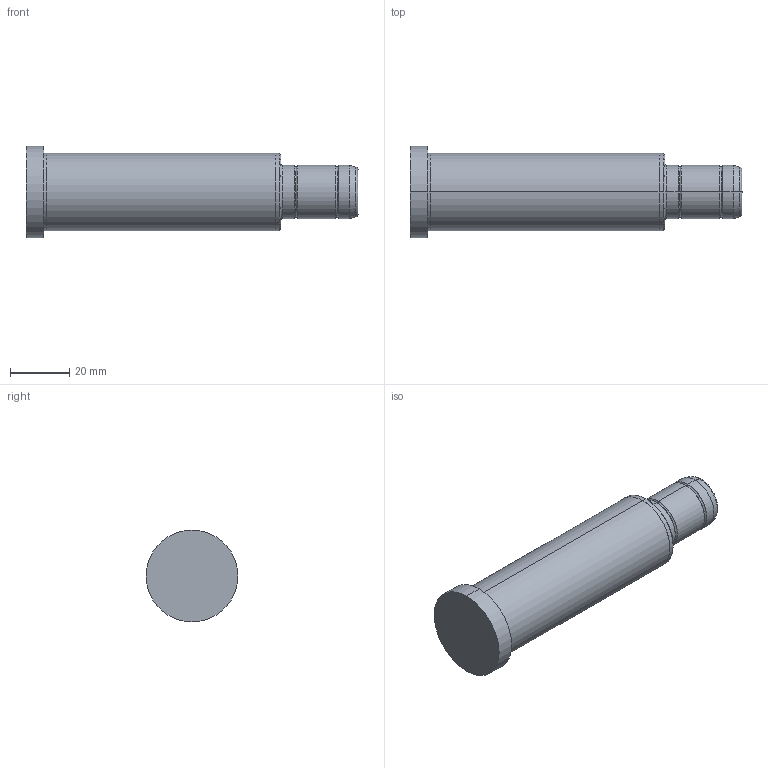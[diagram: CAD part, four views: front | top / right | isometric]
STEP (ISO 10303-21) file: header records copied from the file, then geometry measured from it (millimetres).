
FILE_DESCRIPTION( ( 'STEP AP203' ), '1' );
FILE_NAME( 'C:/Projects/D02 - 18x86x26.step', '2003-01-04T13:26:54', ( ' ' ), ( ' ' ), 'XStep 1.0', ' ', ' ' );
FILE_SCHEMA( ( 'CONFIG_CONTROL_DESIGN' ) );
Length unit declared in the file: metre
Products named in the file (1): 1
Bounding box: 112 x 31 x 31 mm (x, y, z)
Volume: 53559.8 mm3; surface area: 10069.9 mm2
Topology: 1 solids, 1 shells, 36 faces, 70 edges, 40 vertices
Faces by surface type: bspline 18, revolution 18
Entity records: 1127 total; most frequent: CARTESIAN_POINT 417, ORIENTED_EDGE 140, DIRECTION 118, EDGE_CURVE 70, AXIS2_PLACEMENT_3D 41, EDGE_LOOP 40, VERTEX_POINT 40, CIRCLE 40
